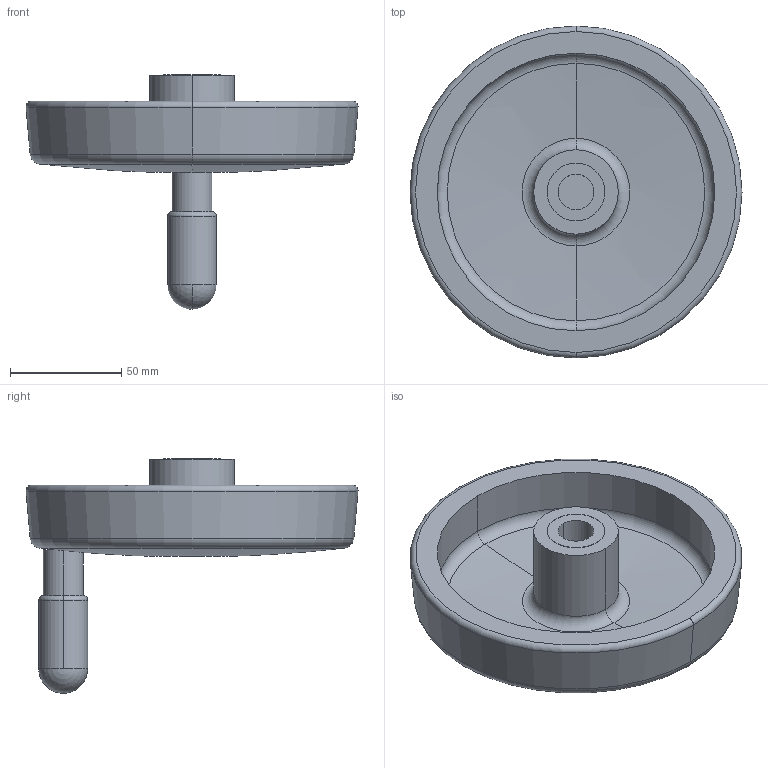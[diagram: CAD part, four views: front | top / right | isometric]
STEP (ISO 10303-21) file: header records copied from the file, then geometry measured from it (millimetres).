
FILE_DESCRIPTION (( 'STEP AP214' ), '1' );
FILE_NAME ('521-150-B16-R.step', '2020-05-29T13:27:55', ( '' ), ( '' ), 'SwSTEP 2.0', 'SolidWorks 2019', '' );
FILE_SCHEMA (( 'AUTOMOTIVE_DESIGN' ));
Length unit declared in the file: millimetre
Products named in the file (1): 521-150-B16-R
Bounding box: 149.53 x 149.53 x 105.7 mm (x, y, z)
Volume: 249247.3 mm3; surface area: 67013 mm2
Topology: 1 solids, 1 shells, 50 faces, 104 edges, 61 vertices
Faces by surface type: cylinder 21, torus 12, plane 9, sphere 6, cone 2
Entity records: 1468 total; most frequent: CARTESIAN_POINT 283, DIRECTION 280, ORIENTED_EDGE 204, AXIS2_PLACEMENT_3D 129, EDGE_CURVE 102, CIRCLE 78, VERTEX_POINT 61, EDGE_LOOP 57
